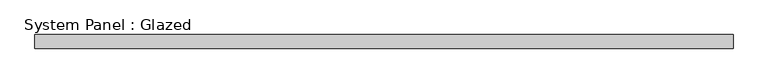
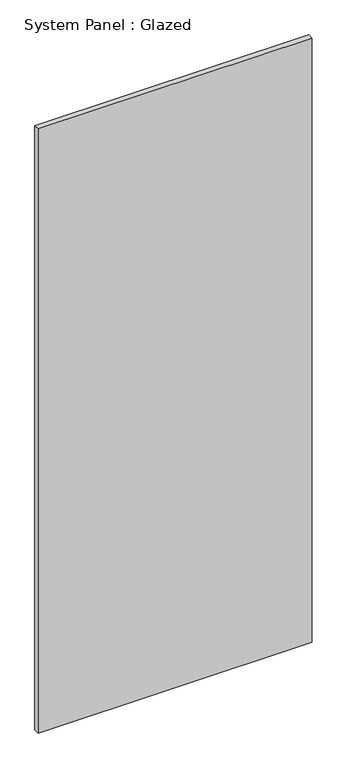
"""IFC4 building model written with IfcOpenShell, lengths in millimetres: plate geometry, System Panel : Glazed."""

from ifc_helpers import new_model, si_unit, origin, origin_with_axes, place, context, project, spatial, polyline, outline, extrude, source, transform, mapped, element, save


def system_panel_glazed_03e53002(model_context):
    return source(origin(), model_context, "Body", "SweptSolid", [
        extrude(outline(polyline([(634.1717338, 19.05), (-634.1717338, 19.05), (-634.1717338, 44.45), (634.1717338, 44.45), (634.1717338, 19.05)])), origin_with_axes(), (0.0, 0.0, 1.0), 2952.75),
    ])


if __name__ == "__main__":
    model = new_model("IFC4")
    model_context = context("Model", 3, world=origin())
    ifc_project = project(units=[si_unit("LENGTHUNIT", "METRE", prefix="MILLI")], contexts=[model_context])
    site = spatial("IfcSite", under=ifc_project)
    building = spatial("IfcBuilding", under=site)
    placement = place(None, origin())
    system_panel_glazed_shape = system_panel_glazed_03e53002(model_context)
    element("IfcPlate", 1, ObjectType="System Panel : Glazed", at=placement, inside=building, context=model_context, shape_type="MappedRepresentation", body=[
        mapped(system_panel_glazed_shape, transform((0.0, 0.0, 0.0), x_axis=(1.0, 0.0, 0.0), y_axis=(0.0, 1.0, 0.0), z_axis=(0.0, 0.0, 1.0))),
    ])
    save(model, "model.ifc")
